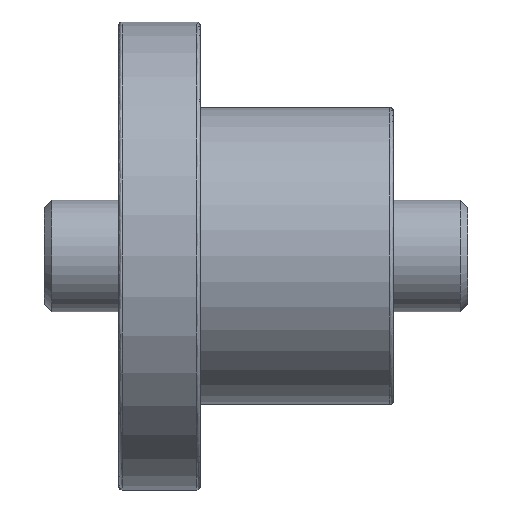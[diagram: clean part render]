
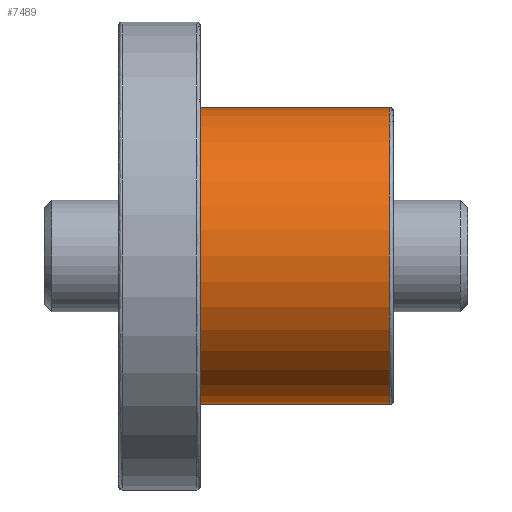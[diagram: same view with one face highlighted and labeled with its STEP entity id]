
A CAD part, front view. The second image highlights one B-rep face of the part: STEP entity #7489.
In plain terms, the highlighted cylindrical face has radius 20 mm (diameter 40 mm), a partial arc.
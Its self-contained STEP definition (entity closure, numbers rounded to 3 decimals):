
#208 = CARTESIAN_POINT ( 'NONE',  ( 36.5, 0., 0. ) ) ;
#440 = DIRECTION ( 'NONE',  ( 0., 0., 1. ) ) ;
#752 = CARTESIAN_POINT ( 'NONE',  ( 37., 0., -20. ) ) ;
#956 = CYLINDRICAL_SURFACE ( 'NONE', #3318, 20. ) ;
#1059 = EDGE_CURVE ( 'NONE', #5975, #7145, #5057, .T. ) ;
#1293 = VERTEX_POINT ( 'NONE', #2384 ) ;
#1335 = DIRECTION ( 'NONE',  ( 0., 0., 1. ) ) ;
#1745 = EDGE_CURVE ( 'NONE', #1293, #7145, #2032, .T. ) ;
#1849 = DIRECTION ( 'NONE',  ( -1., 0., 0. ) ) ;
#1950 = CARTESIAN_POINT ( 'NONE',  ( 11., 0., 0. ) ) ;
#1959 = EDGE_LOOP ( 'NONE', ( #4701, #6326, #3808, #4897 ) ) ;
#2014 = DIRECTION ( 'NONE',  ( 0., 0., 1. ) ) ;
#2032 = LINE ( 'NONE', #6888, #8198 ) ;
#2384 = CARTESIAN_POINT ( 'NONE',  ( 36.5, 0., 20. ) ) ;
#3178 = VERTEX_POINT ( 'NONE', #6793 ) ;
#3318 = AXIS2_PLACEMENT_3D ( 'NONE', #8011, #3571, #440 ) ;
#3345 = EDGE_CURVE ( 'NONE', #3178, #1293, #4414, .T. ) ;
#3571 = DIRECTION ( 'NONE',  ( -1., 0., 0. ) ) ;
#3808 = ORIENTED_EDGE ( 'NONE', *, *, #1745, .T. ) ;
#4092 = EDGE_CURVE ( 'NONE', #3178, #5975, #5839, .T. ) ;
#4414 = CIRCLE ( 'NONE', #8173, 20. ) ;
#4502 = DIRECTION ( 'NONE',  ( -1., 0., 0. ) ) ;
#4701 = ORIENTED_EDGE ( 'NONE', *, *, #4092, .F. ) ;
#4897 = ORIENTED_EDGE ( 'NONE', *, *, #1059, .F. ) ;
#5057 = CIRCLE ( 'NONE', #6184, 20. ) ;
#5153 = DIRECTION ( 'NONE',  ( -1., 0., 0. ) ) ;
#5428 = CARTESIAN_POINT ( 'NONE',  ( 11., 0., 20. ) ) ;
#5839 = LINE ( 'NONE', #752, #6128 ) ;
#5975 = VERTEX_POINT ( 'NONE', #7807 ) ;
#6128 = VECTOR ( 'NONE', #5153, 1000. ) ;
#6184 = AXIS2_PLACEMENT_3D ( 'NONE', #1950, #4502, #1335 ) ;
#6326 = ORIENTED_EDGE ( 'NONE', *, *, #3345, .T. ) ;
#6793 = CARTESIAN_POINT ( 'NONE',  ( 36.5, 0., -20. ) ) ;
#6888 = CARTESIAN_POINT ( 'NONE',  ( 37., 0., 20. ) ) ;
#7145 = VERTEX_POINT ( 'NONE', #5428 ) ;
#7341 = FACE_OUTER_BOUND ( 'NONE', #1959, .T. ) ;
#7489 = ADVANCED_FACE ( 'NONE', ( #7341 ), #956, .T. ) ;
#7807 = CARTESIAN_POINT ( 'NONE',  ( 11., 0., -20. ) ) ;
#7820 = DIRECTION ( 'NONE',  ( -1., 0., 0. ) ) ;
#8011 = CARTESIAN_POINT ( 'NONE',  ( 37., 0., 0. ) ) ;
#8173 = AXIS2_PLACEMENT_3D ( 'NONE', #208, #7820, #2014 ) ;
#8198 = VECTOR ( 'NONE', #1849, 1000. ) ;
